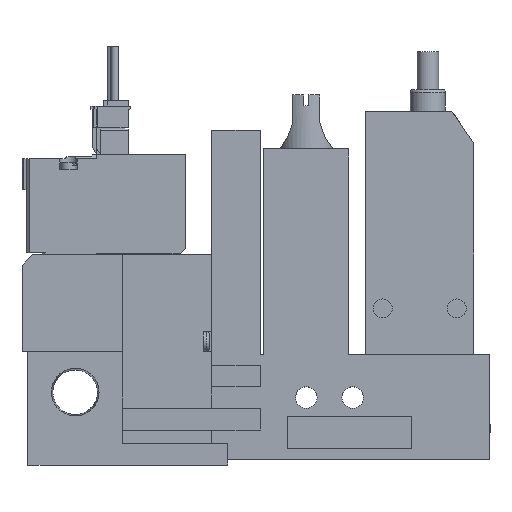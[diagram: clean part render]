
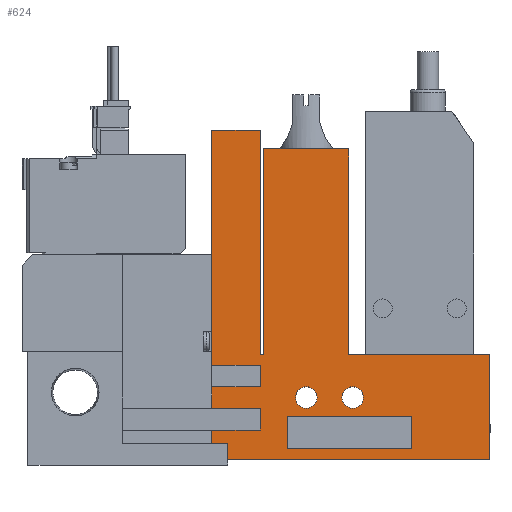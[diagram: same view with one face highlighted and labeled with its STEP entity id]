
A CAD part, top view. The second image highlights one B-rep face of the part: STEP entity #624.
In plain terms, the highlighted planar face has unit normal (0, 0, 1).
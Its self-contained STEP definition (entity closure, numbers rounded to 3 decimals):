
#624=ADVANCED_FACE('',(#1358,#1359,#1360,#1361),#1362,.T.);
#1358=FACE_OUTER_BOUND('',#2239,.T.);
#1359=FACE_BOUND('',#2240,.T.);
#1360=FACE_BOUND('',#2241,.T.);
#1361=FACE_BOUND('',#2242,.T.);
#1362=PLANE('',#2243);
#2239=EDGE_LOOP('',(#4951,#4952,#4953,#4954,#4955,#4956,#4957,#4958,#4959,#4960,#4961,#4962,#4963,#4964,#4965,#4966,#4967,#4968));
#2240=EDGE_LOOP('',(#4969,#4970,#4971,#4972));
#2241=EDGE_LOOP('',(#4973));
#2242=EDGE_LOOP('',(#4974));
#2243=AXIS2_PLACEMENT_3D('',#4975,#4976,#4977);
#4951=ORIENTED_EDGE('',*,*,#6452,.T.);
#4952=ORIENTED_EDGE('',*,*,#6478,.T.);
#4953=ORIENTED_EDGE('',*,*,#6519,.T.);
#4954=ORIENTED_EDGE('',*,*,#6520,.T.);
#4955=ORIENTED_EDGE('',*,*,#6521,.T.);
#4956=ORIENTED_EDGE('',*,*,#6522,.T.);
#4957=ORIENTED_EDGE('',*,*,#6523,.T.);
#4958=ORIENTED_EDGE('',*,*,#6516,.T.);
#4959=ORIENTED_EDGE('',*,*,#6524,.T.);
#4960=ORIENTED_EDGE('',*,*,#6482,.T.);
#4961=ORIENTED_EDGE('',*,*,#6525,.T.);
#4962=ORIENTED_EDGE('',*,*,#6526,.T.);
#4963=ORIENTED_EDGE('',*,*,#6501,.T.);
#4964=ORIENTED_EDGE('',*,*,#6498,.T.);
#4965=ORIENTED_EDGE('',*,*,#6504,.T.);
#4966=ORIENTED_EDGE('',*,*,#6415,.T.);
#4967=ORIENTED_EDGE('',*,*,#6412,.T.);
#4968=ORIENTED_EDGE('',*,*,#6419,.T.);
#4969=ORIENTED_EDGE('',*,*,#6527,.T.);
#4970=ORIENTED_EDGE('',*,*,#6528,.T.);
#4971=ORIENTED_EDGE('',*,*,#6529,.T.);
#4972=ORIENTED_EDGE('',*,*,#6530,.T.);
#4973=ORIENTED_EDGE('',*,*,#6462,.T.);
#4974=ORIENTED_EDGE('',*,*,#6531,.T.);
#4975=CARTESIAN_POINT('',(0.0,0.0,10.0));
#4976=DIRECTION('',(0.0,0.0,1.0));
#4977=DIRECTION('',(1.0,0.0,0.0));
#6412=EDGE_CURVE('',#7915,#7913,#7916,.T.);
#6415=EDGE_CURVE('',#7920,#7915,#7921,.T.);
#6419=EDGE_CURVE('',#7913,#7925,#7927,.T.);
#6452=EDGE_CURVE('',#7925,#7984,#7986,.T.);
#6462=EDGE_CURVE('',#8002,#8002,#8003,.T.);
#6478=EDGE_CURVE('',#7984,#8030,#8032,.T.);
#6482=EDGE_CURVE('',#8040,#8038,#8041,.T.);
#6498=EDGE_CURVE('',#8070,#8068,#8071,.T.);
#6501=EDGE_CURVE('',#8075,#8070,#8076,.T.);
#6504=EDGE_CURVE('',#8068,#7920,#8079,.T.);
#6516=EDGE_CURVE('',#8100,#8098,#8101,.T.);
#6519=EDGE_CURVE('',#8030,#8105,#8106,.T.);
#6520=EDGE_CURVE('',#8105,#8107,#8108,.T.);
#6521=EDGE_CURVE('',#8107,#8109,#8110,.T.);
#6522=EDGE_CURVE('',#8109,#8111,#8112,.T.);
#6523=EDGE_CURVE('',#8111,#8100,#8113,.T.);
#6524=EDGE_CURVE('',#8098,#8040,#8114,.T.);
#6525=EDGE_CURVE('',#8038,#8115,#8116,.T.);
#6526=EDGE_CURVE('',#8115,#8075,#8117,.T.);
#6527=EDGE_CURVE('',#8118,#8119,#8120,.T.);
#6528=EDGE_CURVE('',#8119,#8121,#8122,.T.);
#6529=EDGE_CURVE('',#8121,#8123,#8124,.T.);
#6530=EDGE_CURVE('',#8123,#8118,#8125,.T.);
#6531=EDGE_CURVE('',#8126,#8126,#8127,.T.);
#7913=VERTEX_POINT('',#10329);
#7915=VERTEX_POINT('',#10332);
#7916=LINE('',#10333,#10334);
#7920=VERTEX_POINT('',#10340);
#7921=LINE('',#10341,#10342);
#7925=VERTEX_POINT('',#10348);
#7927=LINE('',#10351,#10352);
#7984=VERTEX_POINT('',#10435);
#7986=LINE('',#10438,#10439);
#8002=VERTEX_POINT('',#10463);
#8003=CIRCLE('',#10464,2.0);
#8030=VERTEX_POINT('',#10505);
#8032=LINE('',#10508,#10509);
#8038=VERTEX_POINT('',#10517);
#8040=VERTEX_POINT('',#10520);
#8041=LINE('',#10521,#10522);
#8068=VERTEX_POINT('',#10563);
#8070=VERTEX_POINT('',#10566);
#8071=LINE('',#10567,#10568);
#8075=VERTEX_POINT('',#10574);
#8076=LINE('',#10575,#10576);
#8079=LINE('',#10581,#10582);
#8098=VERTEX_POINT('',#10611);
#8100=VERTEX_POINT('',#10614);
#8101=LINE('',#10615,#10616);
#8105=VERTEX_POINT('',#10622);
#8106=LINE('',#10623,#10624);
#8107=VERTEX_POINT('',#10625);
#8108=LINE('',#10626,#10627);
#8109=VERTEX_POINT('',#10628);
#8110=LINE('',#10629,#10630);
#8111=VERTEX_POINT('',#10631);
#8112=LINE('',#10632,#10633);
#8113=LINE('',#10634,#10635);
#8114=LINE('',#10636,#10637);
#8115=VERTEX_POINT('',#10638);
#8116=LINE('',#10639,#10640);
#8117=LINE('',#10641,#10642);
#8118=VERTEX_POINT('',#10643);
#8119=VERTEX_POINT('',#10644);
#8120=LINE('',#10645,#10646);
#8121=VERTEX_POINT('',#10647);
#8122=LINE('',#10648,#10649);
#8123=VERTEX_POINT('',#10650);
#8124=LINE('',#10651,#10652);
#8125=LINE('',#10653,#10654);
#8126=VERTEX_POINT('',#10655);
#8127=CIRCLE('',#10656,2.0);
#10329=CARTESIAN_POINT('',(44.1,61.0,10.0));
#10332=CARTESIAN_POINT('',(44.1,19.5,10.0));
#10333=CARTESIAN_POINT('',(44.1,19.5,10.0));
#10334=VECTOR('',#11973,1.0);
#10340=CARTESIAN_POINT('',(44.75,19.5,10.0));
#10341=CARTESIAN_POINT('',(44.75,19.5,10.0));
#10342=VECTOR('',#11976,1.0);
#10348=CARTESIAN_POINT('',(35.1,61.0,10.0));
#10351=CARTESIAN_POINT('',(44.1,61.0,10.0));
#10352=VECTOR('',#11980,1.0);
#10435=CARTESIAN_POINT('',(35.1,17.5,10.0));
#10438=CARTESIAN_POINT('',(35.1,61.0,10.0));
#10439=VECTOR('',#12023,1.0);
#10463=CARTESIAN_POINT('',(54.6,11.5,10.0));
#10464=AXIS2_PLACEMENT_3D('',#12035,#12036,#12037);
#10505=CARTESIAN_POINT('',(44.1,17.5,10.0));
#10508=CARTESIAN_POINT('',(0.0,17.5,10.0));
#10509=VECTOR('',#12053,1.0);
#10517=CARTESIAN_POINT('',(86.6,0.0,10.0));
#10520=CARTESIAN_POINT('',(35.1,0.0,10.0));
#10521=CARTESIAN_POINT('',(18.6,0.0,10.0));
#10522=VECTOR('',#12057,1.0);
#10563=CARTESIAN_POINT('',(44.75,57.5,10.0));
#10566=CARTESIAN_POINT('',(60.45,57.5,10.0));
#10567=CARTESIAN_POINT('',(60.45,57.5,10.0));
#10568=VECTOR('',#12073,1.0);
#10574=CARTESIAN_POINT('',(60.45,19.5,10.0));
#10575=CARTESIAN_POINT('',(60.45,19.5,10.0));
#10576=VECTOR('',#12076,1.0);
#10581=CARTESIAN_POINT('',(44.75,57.5,10.0));
#10582=VECTOR('',#12079,1.0);
#10611=CARTESIAN_POINT('',(35.1,5.5,10.0));
#10614=CARTESIAN_POINT('',(44.1,5.5,10.0));
#10615=CARTESIAN_POINT('',(0.0,5.5,10.0));
#10616=VECTOR('',#12091,1.0);
#10622=CARTESIAN_POINT('',(44.1,13.5,10.0));
#10623=CARTESIAN_POINT('',(44.1,0.0,10.0));
#10624=VECTOR('',#12094,1.0);
#10625=CARTESIAN_POINT('',(35.1,13.5,10.0));
#10626=CARTESIAN_POINT('',(0.0,13.5,10.0));
#10627=VECTOR('',#12095,1.0);
#10628=CARTESIAN_POINT('',(35.1,9.5,10.0));
#10629=CARTESIAN_POINT('',(35.1,0.0,10.0));
#10630=VECTOR('',#12096,1.0);
#10631=CARTESIAN_POINT('',(44.1,9.5,10.0));
#10632=CARTESIAN_POINT('',(0.0,9.5,10.0));
#10633=VECTOR('',#12097,1.0);
#10634=CARTESIAN_POINT('',(44.1,0.0,10.0));
#10635=VECTOR('',#12098,1.0);
#10636=CARTESIAN_POINT('',(35.1,0.0,10.0));
#10637=VECTOR('',#12099,1.0);
#10638=CARTESIAN_POINT('',(86.6,19.5,10.0));
#10639=CARTESIAN_POINT('',(86.6,0.0,10.0));
#10640=VECTOR('',#12100,1.0);
#10641=CARTESIAN_POINT('',(86.6,19.5,10.0));
#10642=VECTOR('',#12101,1.0);
#10643=CARTESIAN_POINT('',(49.1,2.0,10.0));
#10644=CARTESIAN_POINT('',(49.1,8.0,10.0));
#10645=CARTESIAN_POINT('',(49.1,0.0,10.0));
#10646=VECTOR('',#12102,1.0);
#10647=CARTESIAN_POINT('',(72.1,8.0,10.0));
#10648=CARTESIAN_POINT('',(0.0,8.0,10.0));
#10649=VECTOR('',#12103,1.0);
#10650=CARTESIAN_POINT('',(72.1,2.0,10.0));
#10651=CARTESIAN_POINT('',(72.1,0.0,10.0));
#10652=VECTOR('',#12104,1.0);
#10653=CARTESIAN_POINT('',(0.0,2.0,10.0));
#10654=VECTOR('',#12105,1.0);
#10655=CARTESIAN_POINT('',(63.2,11.5,10.0));
#10656=AXIS2_PLACEMENT_3D('',#12106,#12107,#12108);
#11973=DIRECTION('',(0.0,1.0,0.0));
#11976=DIRECTION('',(-1.0,0.0,0.0));
#11980=DIRECTION('',(-1.0,0.0,0.0));
#12023=DIRECTION('',(0.0,-1.0,0.0));
#12035=CARTESIAN_POINT('',(52.6,11.5,10.0));
#12036=DIRECTION('',(0.0,0.0,-1.0));
#12037=DIRECTION('',(1.0,0.0,0.0));
#12053=DIRECTION('',(1.0,0.0,0.0));
#12057=DIRECTION('',(1.0,0.0,0.0));
#12073=DIRECTION('',(-1.0,0.0,0.0));
#12076=DIRECTION('',(0.0,1.0,0.0));
#12079=DIRECTION('',(0.0,-1.0,0.0));
#12091=DIRECTION('',(-1.0,0.0,0.0));
#12094=DIRECTION('',(0.0,-1.0,0.0));
#12095=DIRECTION('',(-1.0,0.0,0.0));
#12096=DIRECTION('',(0.0,-1.0,0.0));
#12097=DIRECTION('',(1.0,0.0,0.0));
#12098=DIRECTION('',(0.0,-1.0,0.0));
#12099=DIRECTION('',(0.0,-1.0,0.0));
#12100=DIRECTION('',(0.0,1.0,0.0));
#12101=DIRECTION('',(-1.0,0.0,0.0));
#12102=DIRECTION('',(0.0,1.0,0.0));
#12103=DIRECTION('',(1.0,0.0,0.0));
#12104=DIRECTION('',(0.0,-1.0,0.0));
#12105=DIRECTION('',(-1.0,0.0,0.0));
#12106=CARTESIAN_POINT('',(61.2,11.5,10.0));
#12107=DIRECTION('',(0.0,0.0,-1.0));
#12108=DIRECTION('',(1.0,0.0,0.0));
